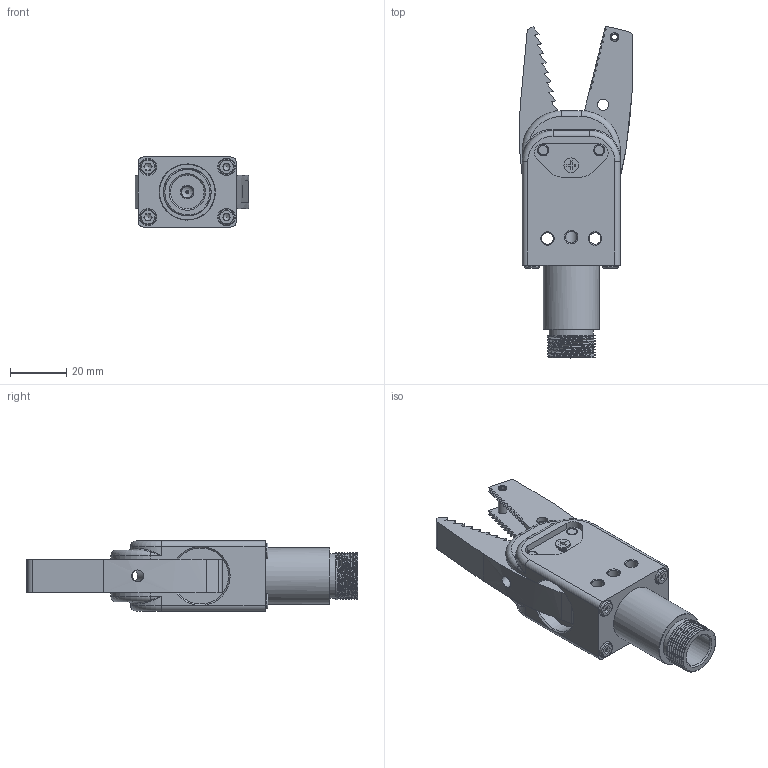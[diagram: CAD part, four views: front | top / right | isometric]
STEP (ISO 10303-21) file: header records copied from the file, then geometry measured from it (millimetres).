
FILE_DESCRIPTION(/* description */ (''),/* implementation_level */ '2;1');
FILE_NAME(/* name */ 'GR20B-20-C.stp',/* time_stamp */ '2023-03-08T14:21:22+08:00',/* author */ (''),/* organization */ (''),/* preprocessor_version */ 'ST-DEVELOPER v16',/* originating_system */ 'SIEMENS PLM Software NX 10.0',/* authorisation */ '');
FILE_SCHEMA (('AUTOMOTIVE_DESIGN { 1 0 10303 214 3 1 1 1 }'));
Length unit declared in the file: millimetre
Products named in the file (1): Admi115498B06j58
Bounding box: 40.59 x 118.39 x 25 mm (x, y, z)
Volume: 49862.9 mm3; surface area: 21642.5 mm2
Topology: 1 solids, 13 shells, 594 faces, 1494 edges, 944 vertices
Faces by surface type: plane 308, cylinder 142, cone 95, bspline 31, torus 18
Full cylindrical faces by diameter (mm): 0.8 x1, 2.5 x4, 3 x30, 3.4 x4, 3.541 x4, 4 x7, 4.038 x2, 4.2 x7, 4.3 x1, 5 x4, 5.2 x1, 5.5 x4, 6 x4, 7.8 x2, 12 x1, 15.8 x1, 20 x1
Entity records: 25599 total; most frequent: CARTESIAN_POINT 8407, DIRECTION 2641, ORIENTED_EDGE 2498, EDGE_CURVE 1249, AXIS2_PLACEMENT_3D 959, VERTEX_POINT 889, EDGE_LOOP 834, LINE 723
